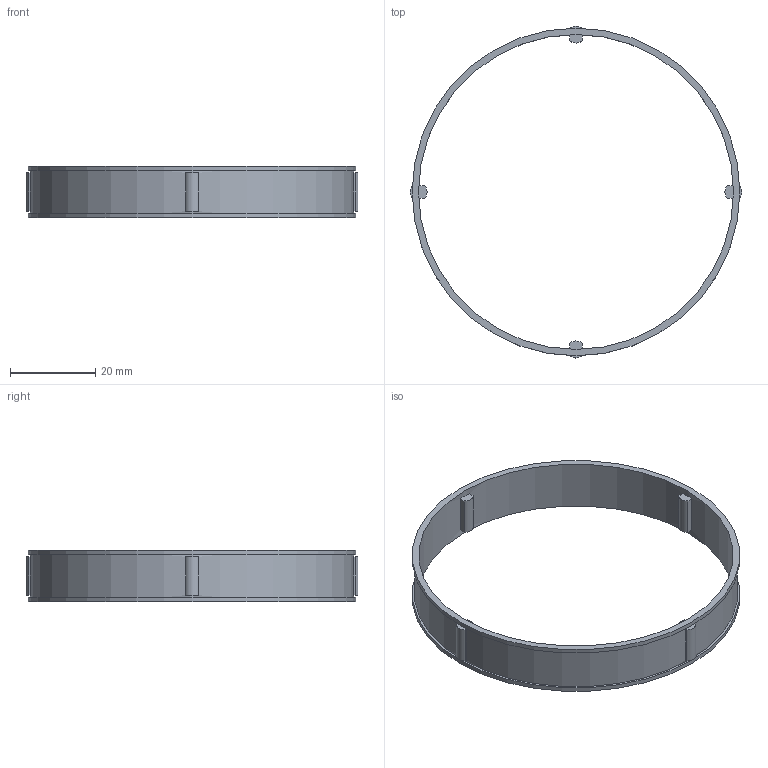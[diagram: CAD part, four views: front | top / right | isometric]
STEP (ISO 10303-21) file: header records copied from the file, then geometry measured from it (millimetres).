
FILE_DESCRIPTION(/* description */ (''),/* implementation_level */ '2;1');
FILE_NAME(/* name */ '300510 FE 478 M.stp',/* time_stamp */ '2016-11-03T13:41:32+01:00',/* author */ (''),/* organization */ (''),/* preprocessor_version */ 'ST-DEVELOPER v15',/* originating_system */ 'SIEMENS PLM Software NX 8.5',/* authorisation */ '');
FILE_SCHEMA (('CONFIG_CONTROL_DESIGN'));
Length unit declared in the file: millimetre
Products named in the file (1): ATE0000081_01
Bounding box: 78 x 78 x 12 mm (x, y, z)
Volume: 3343.4 mm3; surface area: 6823.5 mm2
Topology: 1 solids, 1 shells, 48 faces, 114 edges, 76 vertices
Faces by surface type: plane 36, cylinder 12
Full cylindrical faces by diameter (mm): 74 x1, 76 x1, 77 x2
Entity records: 1420 total; most frequent: DIRECTION 242, CARTESIAN_POINT 225, ORIENTED_EDGE 208, EDGE_CURVE 104, AXIS2_PLACEMENT_3D 89, VERTEX_POINT 72, LINE 64, VECTOR 64
